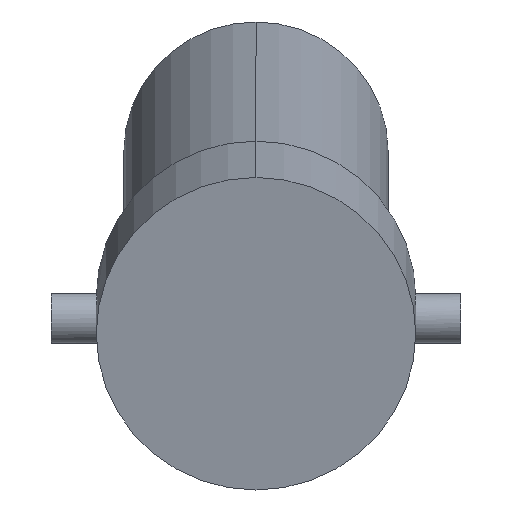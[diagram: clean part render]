
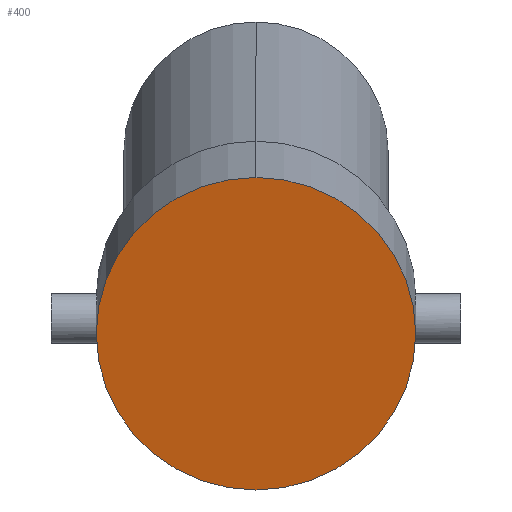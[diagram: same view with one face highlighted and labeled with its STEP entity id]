
A CAD part, left-side view. The second image highlights one B-rep face of the part: STEP entity #400.
In plain terms, the highlighted planar face has unit normal (-0.978, 0, -0.207).
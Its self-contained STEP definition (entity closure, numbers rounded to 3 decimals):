
#27 = AXIS2_PLACEMENT_3D ( 'NONE', #369, #363, #356 ) ;
#86 = CIRCLE ( 'NONE', #179, 96.735 ) ;
#147 = EDGE_LOOP ( 'NONE', ( #383, #596 ) ) ;
#172 = VERTEX_POINT ( 'NONE', #202 ) ;
#179 = AXIS2_PLACEMENT_3D ( 'NONE', #341, #339, #327 ) ;
#202 = CARTESIAN_POINT ( 'NONE',  ( -529.65, 47., 428.901 ) ) ;
#253 = DIRECTION ( 'NONE',  ( -0.208, 0., 0.978 ) ) ;
#260 = DIRECTION ( 'NONE',  ( -0.978, 0., -0.208 ) ) ;
#327 = DIRECTION ( 'NONE',  ( -0.208, 0., 0.978 ) ) ;
#339 = DIRECTION ( 'NONE',  ( -0.978, 0., -0.208 ) ) ;
#341 = CARTESIAN_POINT ( 'NONE',  ( -549.725, 47., 523.53 ) ) ;
#356 = DIRECTION ( 'NONE',  ( -0.208, 0., 0.978 ) ) ;
#362 = EDGE_CURVE ( 'NONE', #654, #172, #388, .T. ) ;
#363 = DIRECTION ( 'NONE',  ( -0.978, 0., -0.208 ) ) ;
#369 = CARTESIAN_POINT ( 'NONE',  ( -549.725, 47., 523.53 ) ) ;
#375 = EDGE_CURVE ( 'NONE', #172, #654, #86, .T. ) ;
#383 = ORIENTED_EDGE ( 'NONE', *, *, #362, .T. ) ;
#388 = CIRCLE ( 'NONE', #27, 96.735 ) ;
#400 = ADVANCED_FACE ( 'NONE', ( #672 ), #402, .T. ) ;
#402 = PLANE ( 'NONE',  #670 ) ;
#420 = CARTESIAN_POINT ( 'NONE',  ( -535.854, 139., 458.143 ) ) ;
#480 = CARTESIAN_POINT ( 'NONE',  ( -569.8, 47., 618.159 ) ) ;
#596 = ORIENTED_EDGE ( 'NONE', *, *, #375, .T. ) ;
#654 = VERTEX_POINT ( 'NONE', #480 ) ;
#670 = AXIS2_PLACEMENT_3D ( 'NONE', #420, #260, #253 ) ;
#672 = FACE_OUTER_BOUND ( 'NONE', #147, .T. ) ;
